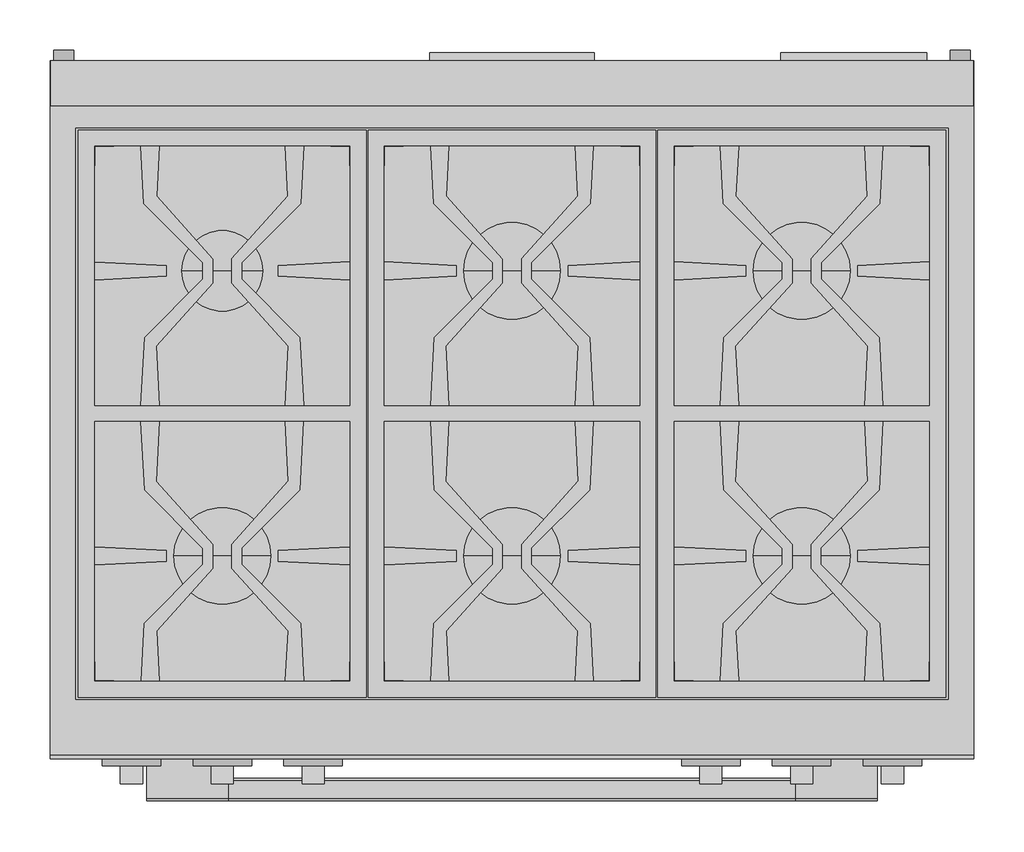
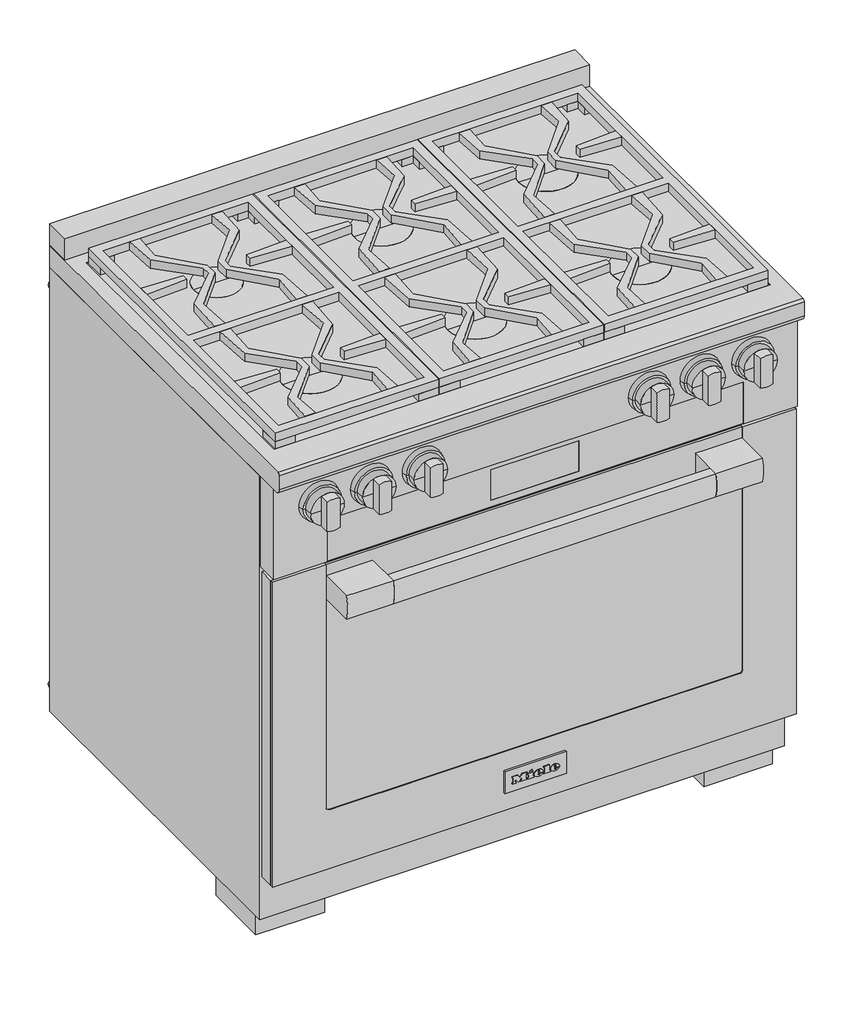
# Not in any storey: 1 proxy.
"""IFC4 building model written with IfcOpenShell, lengths in millimetres."""

from ifc_helpers import new_model, si_unit, origin, place, context, project, spatial, transform, mapped, element, save
from components import specialty_equipment_725725e1, specialty_equipment_81cbe028

model = new_model("IFC4")

# Units and contexts
model_context = context("Model", 3, world=origin())
ifc_project = project(units=[si_unit("LENGTHUNIT", "METRE", prefix="MILLI")], contexts=[model_context])

# Site, building
site = spatial("IfcSite", under=ifc_project)
building = spatial("IfcBuilding", under=site)

# Proxy
placement = place(None, origin())
specialty_equipment_shape = specialty_equipment_725725e1(model_context)
specialty_equipment_2_shape = specialty_equipment_81cbe028(model_context)
element("IfcBuildingElementProxy", 1, Name="11791570_USA_HR1934-3G_EDST-CLST : 25193481_USA_11791570_HR1934-3G_EDST-CLST", ObjectType="11791570_USA_HR1934-3G_EDST-CLST : 25193481_USA_11791570_HR1934-3G_EDST-CLST", at=placement, inside=building, context=model_context, shape_type="MappedRepresentation", body=[
    mapped(specialty_equipment_shape, transform((0.0, 0.0, 0.0), x_axis=(1.0, 0.0, 0.0), y_axis=(0.0, 1.0, 0.0), z_axis=(0.0, 0.0, 1.0))),
    mapped(specialty_equipment_2_shape, transform((0.0, 0.0, 0.0), x_axis=(1.0, 0.0, 0.0), y_axis=(0.0, 1.0, 0.0), z_axis=(0.0, 0.0, 1.0))),
])

save(model, "model.ifc")
